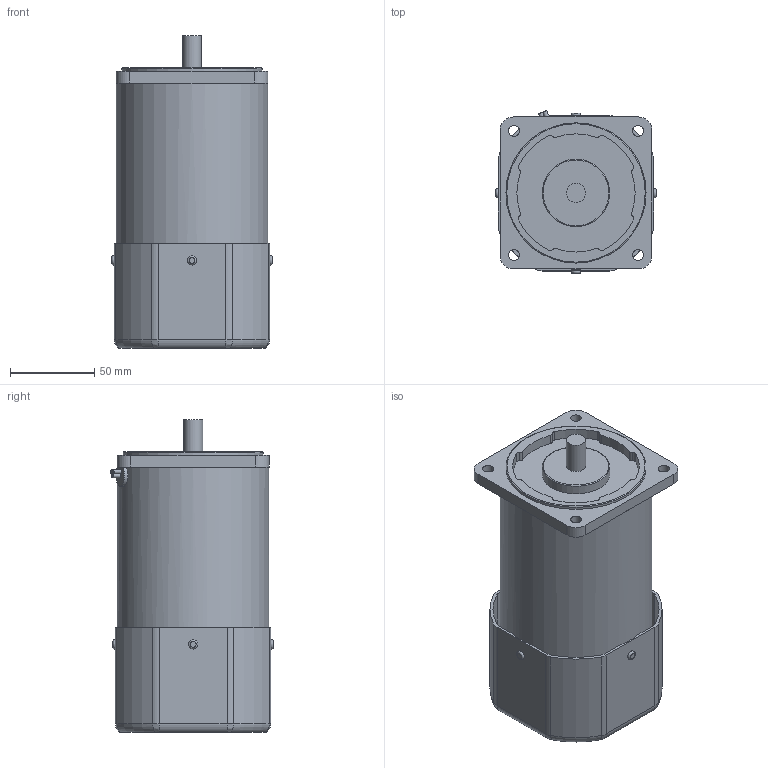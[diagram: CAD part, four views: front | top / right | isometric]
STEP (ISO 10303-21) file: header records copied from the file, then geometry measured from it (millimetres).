
FILE_DESCRIPTION((''),'2;1');
FILE_NAME('E:\2공장-도면\3D\표준형 3D(민규)\step file\B\K9RP60Fㅁ-B.stp','2014-11-13T14:20:03',('AHN'),(''),'Autodesk Inventor 2012','Autodesk Inventor 2012','');
FILE_SCHEMA(('CONFIG_CONTROL_DESIGN'));
Length unit declared in the file: millimetre
Products named in the file (1): K9ㅁP60ㅁ-Bㄱ
Bounding box: 95 x 96.33 x 185 mm (x, y, z)
Volume: 987103.9 mm3; surface area: 105742 mm2
Topology: 1 solids, 1 shells, 227 faces, 570 edges, 350 vertices
Faces by surface type: cylinder 119, plane 62, torus 38, bspline 8
Full cylindrical faces by diameter (mm): 6.5 x4, 8 x4, 11.3 x1, 40 x1, 83 x1, 90 x1
Entity records: 7396 total; most frequent: CARTESIAN_POINT 1936, DIRECTION 1177, ORIENTED_EDGE 1088, EDGE_CURVE 544, AXIS2_PLACEMENT_3D 470, VERTEX_POINT 342, EDGE_LOOP 291, CIRCLE 250
